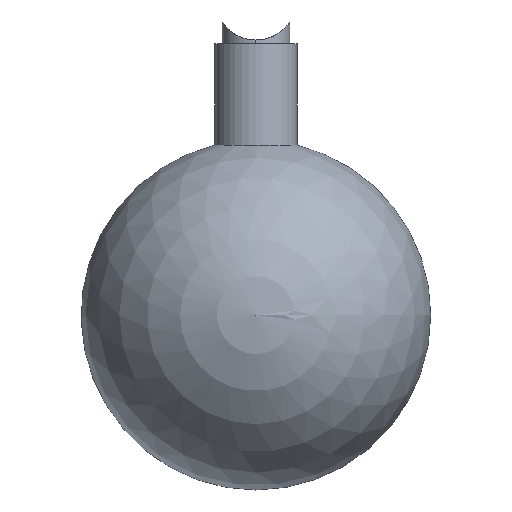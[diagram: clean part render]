
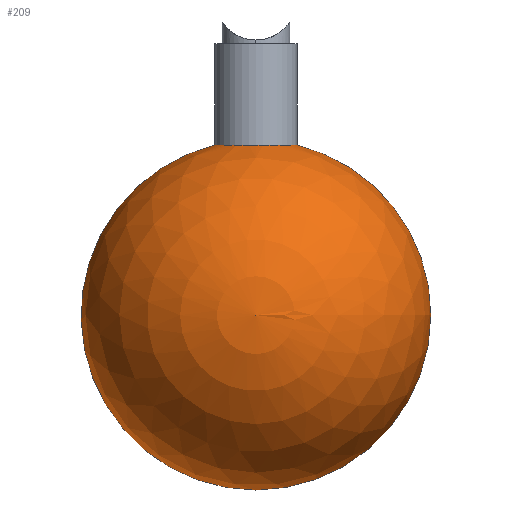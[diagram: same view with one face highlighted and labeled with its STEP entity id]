
A CAD part, left-side view. The second image highlights one B-rep face of the part: STEP entity #209.
In plain terms, the highlighted spherical face has radius 42.5 mm.
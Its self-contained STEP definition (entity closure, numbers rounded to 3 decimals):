
#8 = CIRCLE ( 'NONE', #65, 42.5 ) ;
#27 = DIRECTION ( 'NONE',  ( 0., -1., 0. ) ) ;
#43 = DIRECTION ( 'NONE',  ( 0., 1., 0. ) ) ;
#65 = AXIS2_PLACEMENT_3D ( 'NONE', #88, #416, #711 ) ;
#88 = CARTESIAN_POINT ( 'NONE',  ( 0., 0., -54.807 ) ) ;
#117 = ORIENTED_EDGE ( 'NONE', *, *, #747, .F. ) ;
#147 = DIRECTION ( 'NONE',  ( 1., 0., 0. ) ) ;
#152 = VERTEX_POINT ( 'NONE', #796 ) ;
#194 = EDGE_CURVE ( 'NONE', #431, #152, #527, .T. ) ;
#209 = ADVANCED_FACE ( 'NONE', ( #629 ), #558, .T. ) ;
#256 = ORIENTED_EDGE ( 'NONE', *, *, #706, .T. ) ;
#258 = AXIS2_PLACEMENT_3D ( 'NONE', #400, #646, #27 ) ;
#276 = VERTEX_POINT ( 'NONE', #334 ) ;
#334 = CARTESIAN_POINT ( 'NONE',  ( 0., 0., -97.307 ) ) ;
#400 = CARTESIAN_POINT ( 'NONE',  ( 0., 0., -13.5 ) ) ;
#411 = CARTESIAN_POINT ( 'NONE',  ( 0., 0., -54.807 ) ) ;
#416 = DIRECTION ( 'NONE',  ( -1., 0., 0. ) ) ;
#431 = VERTEX_POINT ( 'NONE', #744 ) ;
#441 = EDGE_LOOP ( 'NONE', ( #117, #256, #634 ) ) ;
#461 = CARTESIAN_POINT ( 'NONE',  ( 0., 0., -54.807 ) ) ;
#521 = DIRECTION ( 'NONE',  ( 0., -1., 0. ) ) ;
#527 = CIRCLE ( 'NONE', #258, 10. ) ;
#552 = AXIS2_PLACEMENT_3D ( 'NONE', #411, #788, #43 ) ;
#558 = SPHERICAL_SURFACE ( 'NONE', #761, 42.5 ) ;
#629 = FACE_OUTER_BOUND ( 'NONE', #441, .T. ) ;
#634 = ORIENTED_EDGE ( 'NONE', *, *, #194, .F. ) ;
#646 = DIRECTION ( 'NONE',  ( 0., 0., 1. ) ) ;
#686 = CIRCLE ( 'NONE', #552, 42.5 ) ;
#706 = EDGE_CURVE ( 'NONE', #276, #152, #8, .T. ) ;
#711 = DIRECTION ( 'NONE',  ( 0., 0., 1. ) ) ;
#744 = CARTESIAN_POINT ( 'NONE',  ( 0., 10., -13.5 ) ) ;
#747 = EDGE_CURVE ( 'NONE', #276, #431, #686, .T. ) ;
#761 = AXIS2_PLACEMENT_3D ( 'NONE', #461, #147, #521 ) ;
#788 = DIRECTION ( 'NONE',  ( 1., 0., 0. ) ) ;
#796 = CARTESIAN_POINT ( 'NONE',  ( 0., -10., -13.5 ) ) ;
